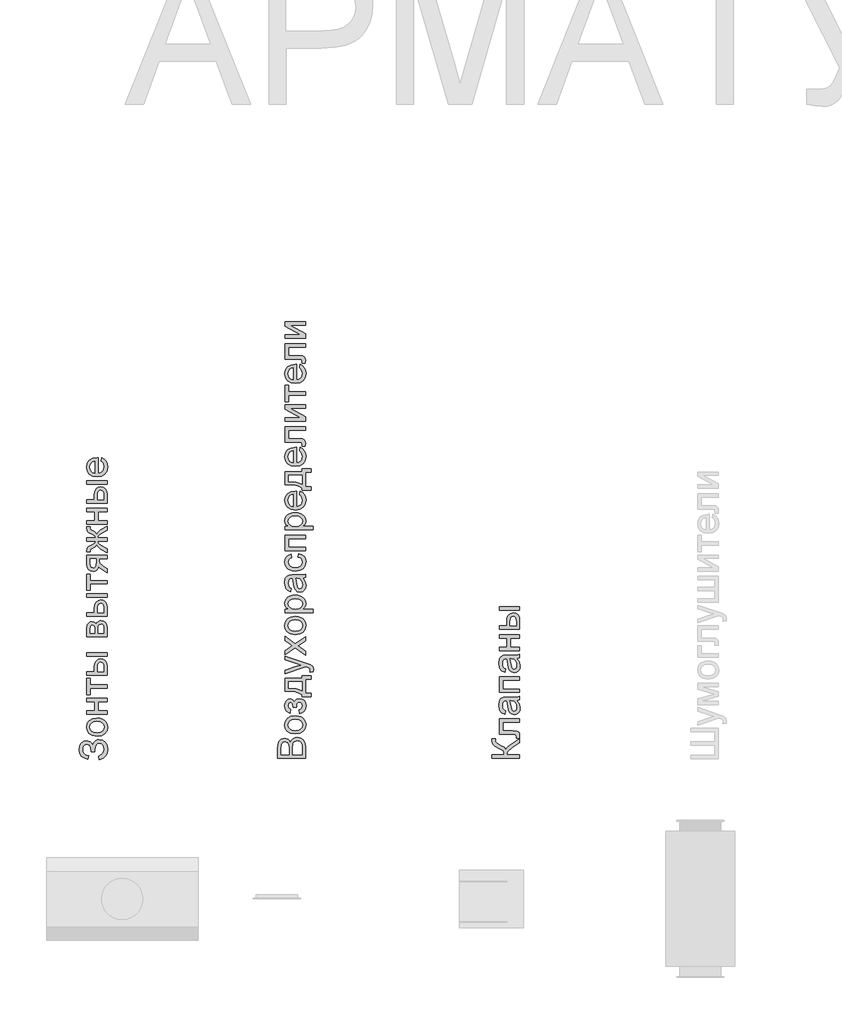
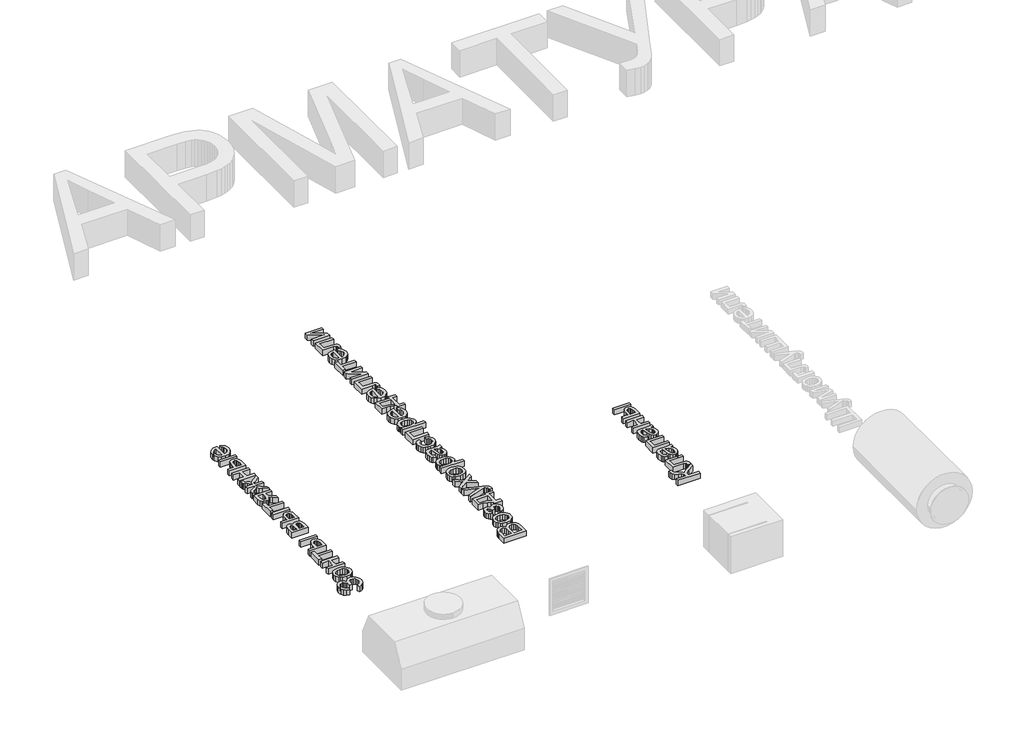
# One storey, part 6 of 8: 3 proxies.
"""IFC4 building model written with IfcOpenShell, lengths in millimetres."""

import ifcopenshell
import ifcopenshell.guid

model = None  # the IFC model being written
_history = None  # IfcOwnerHistory: only IFC2X3 demands one
_inside = {}  # id of a spatial element -> (the spatial element, [elements in it])
_under = {}  # id of a project, library or spatial element -> (it, [spatial elements below it])
_declared = {}  # id of a project -> (the project, [libraries it declares])
_typed = {}  # id of a type object -> (the type object, [elements of that type])
_made_of = {}  # id of a material, layer set ... -> (it, [elements and type objects made of it])


def new_model(schema):
    """Start an empty IFC model of exactly this schema.

    Asked for "IFC4X3", IfcOpenShell would pick the latest addendum, in which some entities
    have other attributes; the version numbers below select the first issue.
    IFC2X3 requires an IfcOwnerHistory on every rooted entity: one is made here for all.
    """
    global model, _history
    if schema == "IFC4X3":
        model = ifcopenshell.file(schema_version=(4, 3, 0, 0))
    else:
        model = ifcopenshell.file(schema=schema)
    _inside.clear()
    _under.clear()
    _declared.clear()
    _typed.clear()
    _made_of.clear()
    _history = None
    if model.schema == "IFC2X3":
        org = make("IfcOrganization", Name="unknown")
        user = make(
            "IfcPersonAndOrganization",
            ThePerson=make("IfcPerson", FamilyName="unknown"),
            TheOrganization=org,
        )
        app = make(
            "IfcApplication",
            ApplicationDeveloper=org,
            Version="unknown",
            ApplicationFullName="unknown",
            ApplicationIdentifier="unknown",
        )
        _history = make(
            "IfcOwnerHistory",
            OwningUser=user,
            OwningApplication=app,
            ChangeAction="ADDED",
            CreationDate=0,
        )
    return model


def make(cls, **values):
    """One entity of the class cls with the attributes given. An attribute that is None is left unset."""
    return model.create_entity(
        cls, **{name: value for name, value in values.items() if value is not None}
    )


def rooted(cls, **values):
    """An entity with a GlobalId (a new one), such as an element, a storey or a relation."""
    return make(cls, GlobalId=ifcopenshell.guid.new(), OwnerHistory=_history, **values)


def si_unit(unit_type, name, prefix=None):
    """IfcSIUnit, for example si_unit("LENGTHUNIT", "METRE", prefix="MILLI")."""
    return make("IfcSIUnit", UnitType=unit_type, Prefix=prefix, Name=name)


def assignment(units):
    """IfcUnitAssignment: the units of a project."""
    return None if units is None else make("IfcUnitAssignment", Units=units)


def point(xyz):
    """IfcCartesianPoint."""
    return None if xyz is None else make("IfcCartesianPoint", Coordinates=xyz)


def direction(xyz):
    """IfcDirection."""
    return None if xyz is None else make("IfcDirection", DirectionRatios=xyz)


def frame(location, z_axis=None, x_axis=None):
    """IfcAxis2Placement3D, a coordinate frame: its origin and axes. An axis left out is left unset."""
    return make(
        "IfcAxis2Placement3D",
        Location=point(location),
        Axis=direction(z_axis),
        RefDirection=direction(x_axis),
    )


def origin():
    """The frame at (0, 0, 0) with its axes left unset."""
    return frame((0.0, 0.0, 0.0))


def origin_with_axes():
    """The frame at (0, 0, 0) with the z axis (0, 0, 1) and the x axis (1, 0, 0) written out."""
    return frame((0.0, 0.0, 0.0), z_axis=(0.0, 0.0, 1.0), x_axis=(1.0, 0.0, 0.0))


def place(relative_to, where):
    """IfcLocalPlacement: puts the frame where relative to a parent placement (None: the world)."""
    return make(
        "IfcLocalPlacement", PlacementRelTo=relative_to, RelativePlacement=where
    )


def context(
    kind, dimensions, precision=None, world=None, true_north=None, identifier=None
):
    """IfcGeometricRepresentationContext, for example the 3D "Model" context."""
    return make(
        "IfcGeometricRepresentationContext",
        ContextIdentifier=identifier,
        ContextType=kind,
        CoordinateSpaceDimension=dimensions,
        Precision=precision,
        WorldCoordinateSystem=world,
        TrueNorth=true_north,
    )


def project(units=None, contexts=None):
    """IfcProject with its units and contexts."""
    return rooted(
        "IfcProject",
        Name="project",
        RepresentationContexts=contexts,
        UnitsInContext=assignment(units),
    )


def spatial(cls, under=None, at=None, **own):
    """A site, building, storey or space (cls), placed at a placement, below another one or the project."""
    s = rooted(cls, ObjectPlacement=at, **own)
    if under is not None:
        _under.setdefault(under.id(), (under, []))[1].append(s)
    return s


def polyline(points):
    """IfcPolyline through the points."""
    return make("IfcPolyline", Points=[point(p) for p in points])


def outline(outer, holes=None, kind="AREA"):
    """IfcArbitraryClosedProfileDef: a profile drawn as a closed curve; with holes, ...WithVoids."""
    if holes is None:
        return make("IfcArbitraryClosedProfileDef", ProfileType=kind, OuterCurve=outer)
    return make(
        "IfcArbitraryProfileDefWithVoids",
        ProfileType=kind,
        OuterCurve=outer,
        InnerCurves=holes,
    )


def extrude(swept, where, along, depth):
    """IfcExtrudedAreaSolid: the profile swept, set in the frame where, extruded along a direction by depth."""
    return make(
        "IfcExtrudedAreaSolid",
        SweptArea=swept,
        Position=where,
        ExtrudedDirection=direction(along),
        Depth=depth,
    )


def shape(context_of_items, identifier, shape_type, items):
    """IfcShapeRepresentation: the items that make up one representation, for example the "Body"."""
    return make(
        "IfcShapeRepresentation",
        ContextOfItems=context_of_items,
        RepresentationIdentifier=identifier,
        RepresentationType=shape_type,
        Items=items,
    )


def made_of(thing, what):
    """Note that an element or type object is made of a material, layer set ...; save() writes the relation."""
    if what is not None:
        _made_of.setdefault(what.id(), (what, []))[1].append(thing)
    return thing


def element(
    cls,
    number,
    at=None,
    inside=None,
    cuts=None,
    type_object=None,
    material=None,
    context=None,
    identifier="Body",
    shape_type=None,
    held_by="IfcProductDefinitionShape",
    body=None,
    shapes=None,
    **own,
):
    """One element of the class cls, such as IfcWall. Its Tag is "e" and its number.

    at: its placement. inside: the storey or other place that contains it. cuts: it is an
    opening in that element (IfcRelVoidsElement). A single representation is given by context,
    identifier, shape_type and body (its items); several are given by shapes. held_by: the class
    of the entity that holds the representations. save() writes the other relations.
    """
    e = rooted(cls, Tag="e%d" % number, ObjectPlacement=at, **own)
    if body is not None:
        shapes = [shape(context, identifier, shape_type, body)]
    if shapes is not None:
        e.Representation = make(held_by, Representations=shapes)
    if inside is not None:
        _inside.setdefault(inside.id(), (inside, []))[1].append(e)
    if cuts is not None:
        rooted(
            "IfcRelVoidsElement", RelatingBuildingElement=cuts, RelatedOpeningElement=e
        )
    if type_object is not None:
        _typed.setdefault(type_object.id(), (type_object, []))[1].append(e)
    return made_of(e, material)


def aggregate(whole, parts):
    """IfcRelAggregates: a whole, such as a stair, and the parts it consists of."""
    return rooted("IfcRelAggregates", RelatingObject=whole, RelatedObjects=parts)


def save(model, path):
    """Write the relations noted so far, then the file.

    IfcRelAggregates (storeys below a building ...), IfcRelContainedInSpatialStructure (elements
    in a storey), IfcRelDefinesByType, IfcRelAssociatesMaterial and IfcRelDeclares: one each for
    every whole, place, type object, material and project.
    """
    for whole, parts in _under.values():
        aggregate(whole, parts)
    for where, things in _inside.values():
        rooted(
            "IfcRelContainedInSpatialStructure",
            RelatedElements=things,
            RelatingStructure=where,
        )
    for kind, things in _typed.values():
        rooted("IfcRelDefinesByType", RelatedObjects=things, RelatingType=kind)
    for what, things in _made_of.values():
        rooted("IfcRelAssociatesMaterial", RelatedObjects=things, RelatingMaterial=what)
    for by, libraries in _declared.values():
        rooted("IfcRelDeclares", RelatingContext=by, RelatedDefinitions=libraries)
    model.write(path)


model = new_model("IFC4")

# Units and contexts
model_context = context("Model", 3, world=origin())
ifc_project = project(units=[si_unit("LENGTHUNIT", "METRE", prefix="MILLI")], contexts=[model_context])

# Site, building, storey
site = spatial("IfcSite", under=ifc_project)
building = spatial("IfcBuilding", under=site)
storey = spatial("IfcBuildingStorey", under=building, Name="Уровень 1", Elevation=0.0)

# Proxies
placement = place(None, origin())
element("IfcBuildingElementProxy", 1, Name="200 мм Arial", ObjectType="200 мм Arial", at=placement, inside=storey, context=model_context, shape_type="SweptSolid", body=[
    extrude(outline(polyline([(-65141.3044356, 31354.1973503), (-65141.3044356, 31379.3114278), (-65053.4051642, 31379.3114278), (-65055.0667645, 31396.3137074), (-65060.0515656, 31407.3930868), (-65071.7808699, 31416.3510134), (-65093.6759799, 31426.9889344), (-65121.7576389, 31440.8458229), (-65135.6635783, 31456.5421213), (-65141.3044356, 31478.9829231), (-65141.01013, 31495.4640364), (-65115.8960524, 31495.4640364), (-65116.0432052, 31489.921281), (-65116.190358, 31484.3785256), (-65114.6820419, 31472.8760819), (-65110.1570933, 31464.7581526), (-65084.3072518, 31449.846669), (-65052.816553, 31432.0657059), (-65042.4177553, 31414.7262012), (-65031.0624644, 31434.1135824), (-65007.3953893, 31453.2311834), (-64940.3918153, 31495.4640364), (-64940.3918153, 31466.3277824), (-64996.9965916, 31430.6187034), (-65026.5497786, 31405.4801004), (-65032.5646492, 31393.8734235), (-65034.569606, 31379.3114278), (-64940.3918153, 31379.3114278), (-64940.3918153, 31354.1973503), (-65141.3044356, 31354.1973503)])), origin_with_axes(), (0.0, 0.0, 1.0), 50.0),
    extrude(outline(polyline([(-65087.9370208, 31526.8566334), (-65087.9370208, 31639.8699823), (-64940.5389681, 31639.8699823), (-64940.5389681, 31614.7559047), (-65062.8229433, 31614.7559047), (-65062.8229433, 31551.9707109), (-64992.4348549, 31551.9707109), (-64959.9631374, 31550.2784537), (-64946.2534017, 31540.983302), (-64941.8572119, 31531.6881502), (-64940.3918153, 31519.0084841), (-64941.6671395, 31498.6032961), (-64965.5058928, 31498.6032961), (-64965.5058928, 31509.8359597), (-64967.0509972, 31521.1912506), (-64971.9560905, 31525.7284619), (-64993.8573319, 31526.8566334), (-65087.9370208, 31526.8566334)])), origin_with_axes(), (0.0, 0.0, 1.0), 50.0),
    extrude(outline(polyline([(-64959.2273734, 31771.7188893), (-64942.2066998, 31747.3651013), (-64937.2525556, 31720.4606647), (-64940.2323998, 31699.4729969), (-64949.1719322, 31683.9912962), (-64962.7467779, 31674.4447585), (-64979.6325614, 31671.2625792), (-64999.4981892, 31676.0695706), (-65013.9191634, 31688.7001858), (-65022.1597201, 31706.2849451), (-65025.9366419, 31728.0145083), (-65034.569606, 31771.5717366), (-65040.1614124, 31771.7188893), (-65051.3695505, 31769.989844), (-65058.7026649, 31764.8027078), (-65064.1473185, 31753.2021623), (-65065.962203, 31737.0398799), (-65064.7543238, 31722.0793455), (-65061.1306861, 31711.6314968), (-65054.4291024, 31704.5068488), (-65043.9873851, 31699.5159164), (-65047.1266448, 31674.4018389), (-65071.6521112, 31685.2666205), (-65079.9049306, 31694.524984), (-65086.0240344, 31707.1433365), (-65091.0762805, 31740.2772415), (-65086.6126456, 31770.7133452), (-65075.4045075, 31787.9056971), (-65058.3593084, 31795.6066936), (-65036.3844906, 31796.8329669), (-65005.1390464, 31796.8329669), (-64961.5082418, 31798.1082911), (-64940.3918153, 31803.1114863), (-64940.3918153, 31777.9974087), (-64959.2273734, 31771.7188893)]), holes=[polyline([(-65009.4555285, 31771.7188893), (-65001.7545321, 31731.2028189), (-64997.6833047, 31709.5958831), (-64991.0614288, 31699.810222), (-64981.398395, 31696.3766567), (-64973.9303905, 31698.2467235), (-64967.8112867, 31703.856924), (-64963.7277965, 31713.0846307), (-64962.3666331, 31725.8072164), (-64963.8688179, 31739.2962228), (-64968.3753724, 31751.2155995), (-64982.9189739, 31767.598611), (-65002.3431433, 31771.5717366), (-65009.4555285, 31771.7188893)])]), origin_with_axes(), (0.0, 0.0, 1.0), 50.0),
    extrude(outline(polyline([(-65087.9370208, 31831.3648235), (-65087.9370208, 31944.3781724), (-64940.3918153, 31944.3781724), (-64940.3918153, 31919.2640949), (-65062.8229433, 31919.2640949), (-65062.8229433, 31856.478901), (-64940.3918153, 31856.478901), (-64940.3918153, 31831.3648235), (-65087.9370208, 31831.3648235)])), origin_with_axes(), (0.0, 0.0, 1.0), 50.0),
    extrude(outline(polyline([(-64959.2273734, 32076.2270795), (-64942.2066998, 32051.8732914), (-64937.2525556, 32024.9688548), (-64940.2323998, 32003.981187), (-64949.1719322, 31988.4994864), (-64962.7467779, 31978.9529486), (-64979.6325614, 31975.7707693), (-64999.4981892, 31980.5777607), (-65013.9191634, 31993.2083759), (-65022.1597201, 32010.7931353), (-65025.9366419, 32032.5226985), (-65034.569606, 32076.0799267), (-65040.1614124, 32076.2270795), (-65051.3695505, 32074.4980341), (-65058.7026649, 32069.310898), (-65064.1473185, 32057.7103524), (-65065.962203, 32041.5480701), (-65064.7543238, 32026.5875356), (-65061.1306861, 32016.1396869), (-65054.4291024, 32009.015039), (-65043.9873851, 32004.0241066), (-65047.1266448, 31978.910029), (-65071.6521112, 31989.7748106), (-65079.9049306, 31999.0331742), (-65086.0240344, 32011.6515266), (-65091.0762805, 32044.7854316), (-65086.6126456, 32075.2215354), (-65075.4045075, 32092.4138873), (-65058.3593084, 32100.1148837), (-65036.3844906, 32101.341157), (-65005.1390464, 32101.341157), (-64961.5082418, 32102.6164813), (-64940.3918153, 32107.6196764), (-64940.3918153, 32082.5055989), (-64959.2273734, 32076.2270795)]), holes=[polyline([(-65009.4555285, 32076.2270795), (-65001.7545321, 32035.7110091), (-64997.6833047, 32014.1040732), (-64991.0614288, 32004.3184122), (-64981.398395, 32000.8848469), (-64973.9303905, 32002.7549137), (-64967.8112867, 32008.3651141), (-64963.7277965, 32017.5928208), (-64962.3666331, 32030.3154065), (-64963.8688179, 32043.804413), (-64968.3753724, 32055.7237896), (-64982.9189739, 32072.1068011), (-65002.3431433, 32076.0799267), (-65009.4555285, 32076.2270795)])]), origin_with_axes(), (0.0, 0.0, 1.0), 50.0),
    extrude(outline(polyline([(-65087.9370208, 32135.8730136), (-65087.9370208, 32160.9870912), (-65031.4303464, 32160.9870912), (-65031.4303464, 32226.9115447), (-65087.9370208, 32226.9115447), (-65087.9370208, 32252.0256223), (-64940.3918153, 32252.0256223), (-64940.3918153, 32226.9115447), (-65006.3162688, 32226.9115447), (-65006.3162688, 32160.9870912), (-64940.3918153, 32160.9870912), (-64940.3918153, 32135.8730136), (-65087.9370208, 32135.8730136)])), origin_with_axes(), (0.0, 0.0, 1.0), 50.0),
    extrude(outline(polyline([(-65087.9370208, 32289.6967386), (-65087.9370208, 32314.8108161), (-65034.569606, 32314.8108161), (-65034.569606, 32345.8600565), (-65031.424215, 32372.697048), (-65021.9880418, 32392.5810699), (-65007.021376, 32404.8867226), (-64987.2845069, 32408.9886069), (-64969.3134715, 32405.5489102), (-64954.1506019, 32395.2298202), (-64943.8315119, 32377.3568866), (-64940.3918153, 32351.2556591), (-64940.3918153, 32289.6967386), (-65087.9370208, 32289.6967386)]), holes=[polyline([(-64965.5058928, 32314.8108161), (-64965.5058928, 32340.6116067), (-64966.8241366, 32360.6121245), (-64970.7788681, 32373.91719), (-64977.5295027, 32381.3851945), (-64987.235456, 32383.8745293), (-64995.4392245, 32382.028988), (-65002.6864998, 32376.492364), (-65007.7632713, 32364.6526951), (-65009.4555285, 32343.8980192), (-65009.4555285, 32314.8108161), (-64965.5058928, 32314.8108161)])]), origin_with_axes(), (0.0, 0.0, 1.0), 50.0),
    extrude(outline(polyline([(-65087.9370208, 32427.824165), (-65087.9370208, 32452.9382426), (-64940.3918153, 32452.9382426), (-64940.3918153, 32427.824165), (-65087.9370208, 32427.824165)])), origin_with_axes(), (0.0, 0.0, 1.0), 50.0),
])
element("IfcBuildingElementProxy", 2, Name="200 мм Arial", ObjectType="200 мм Arial", at=placement, inside=storey, context=model_context, shape_type="SweptSolid", body=[
    extrude(outline(polyline([(-66496.8984897, 31354.1973503), (-66697.81111, 31354.1973503), (-66697.81111, 31430.8639581), (-66696.3334507, 31451.9497278), (-66691.9004727, 31468.4124471), (-66684.4018113, 31481.0307995), (-66673.7271021, 31490.5834686), (-66661.1700633, 31496.5983393), (-66648.0244134, 31498.6032961), (-66635.9272271, 31496.9171703), (-66624.5535421, 31491.8587929), (-66614.6023341, 31483.3913756), (-66606.772579, 31471.4781304), (-66599.3413627, 31485.7090322), (-66588.0351227, 31496.2243259), (-66573.6018857, 31502.7174431), (-66556.7896786, 31504.8818155), (-66529.7871401, 31498.9711781), (-66510.5591745, 31484.3294747), (-66500.3565805, 31462.4772842), (-66496.8984897, 31430.2753469), (-66496.8984897, 31354.1973503)]), holes=[polyline([(-66616.190358, 31379.3114278), (-66616.190358, 31425.1740499), (-66618.3485991, 31451.9558591), (-66627.6437508, 31468.0690905), (-66644.0022369, 31473.4892186), (-66660.3852484, 31468.4369725), (-66670.0728076, 31453.9669474), (-66672.6970325, 31421.6914337), (-66672.6970325, 31379.3114278), (-66616.190358, 31379.3114278)]), polyline([(-66522.0125673, 31379.3114278), (-66522.0125673, 31430.8149072), (-66522.9935859, 31449.4542616), (-66528.4627649, 31465.2241364), (-66539.6218521, 31475.6719851), (-66556.5444239, 31479.767738), (-66576.0666951, 31474.9607466), (-66583.123898, 31468.6638331), (-66587.7162916, 31459.3870754), (-66591.0762805, 31428.3623605), (-66591.0762805, 31379.3114278), (-66522.0125673, 31379.3114278)])]), origin_with_axes(), (0.0, 0.0, 1.0), 50.0),
    extrude(outline(polyline([(-66570.6710925, 31529.9958931), (-66606.2452814, 31535.4282838), (-66620.0684474, 31542.2187723), (-66631.2489944, 31551.7254562), (-66643.4994648, 31571.8608641), (-66647.582955, 31595.9693975), (-66642.6104167, 31622.3526679), (-66627.6928018, 31643.4261749), (-66604.0073326, 31657.2401438), (-66572.7312317, 31661.8448001), (-66547.3596367, 31659.8091864), (-66528.045832, 31653.7023453), (-66513.5819382, 31643.7020864), (-66502.7600762, 31629.9862193), (-66496.0094416, 31613.6951783), (-66493.7592301, 31595.9693975), (-66498.7133743, 31569.267296), (-66513.5758069, 31548.2183145), (-66537.7579167, 31534.5514984), (-66570.6710925, 31529.9958931)]), holes=[polyline([(-66570.7201434, 31555.1099706), (-66547.9911675, 31558.0162384), (-66531.7982284, 31566.7350416), (-66522.1045378, 31579.8561661), (-66518.8733076, 31595.9693975), (-66522.1229319, 31612.0090525), (-66531.8718048, 31625.1056515), (-66548.2793417, 31633.8244548), (-66571.5049584, 31636.7307226), (-66593.5717467, 31633.8060607), (-66609.5439567, 31625.0320751), (-66619.2376472, 31611.917082), (-66622.4688774, 31595.9693975), (-66619.24991, 31579.8561661), (-66609.5930076, 31566.7350416), (-66593.4368566, 31558.0162384), (-66570.7201434, 31555.1099706)])]), origin_with_axes(), (0.0, 0.0, 1.0), 50.0),
    extrude(outline(polyline([(-66562.8229433, 31724.629994), (-66587.9370208, 31724.629994), (-66588.9180395, 31744.4465708), (-66594.1419638, 31754.452961), (-66605.0557963, 31759.1618506), (-66612.1988384, 31757.5860894), (-66617.7354624, 31752.8588057), (-66622.4688774, 31736.5984215), (-66617.7599879, 31719.7984771), (-66603.6333193, 31708.9336955), (-66606.772579, 31680.6803583), (-66624.6271185, 31688.1728882), (-66637.380361, 31699.5649674), (-66645.0323065, 31714.8565956), (-66647.582955, 31734.047773), (-66644.4743521, 31755.0415722), (-66635.1485435, 31770.9340744), (-66621.5062529, 31780.9404647), (-66605.4482038, 31784.2759281), (-66589.8500072, 31779.5302504), (-66577.7834777, 31765.2932172), (-66562.1362302, 31781.8969579), (-66539.6218521, 31787.4151878), (-66521.1357819, 31783.9141775), (-66506.4879471, 31773.4111465), (-66496.9414093, 31756.6173334), (-66493.7592301, 31734.2439768), (-66496.702286, 31712.3611294), (-66505.5314539, 31695.6163673), (-66520.2467337, 31684.0096903), (-66540.8481254, 31677.5410986), (-66543.9873851, 31705.7944358), (-66533.3678582, 31710.0250788), (-66525.4461326, 31717.1252013), (-66520.5165138, 31726.2732002), (-66518.8733076, 31736.6474725), (-66520.4490688, 31746.7519646), (-66525.1763524, 31754.9925213), (-66532.3561827, 31760.473963), (-66541.2895838, 31762.3011103), (-66554.4842847, 31757.763899), (-66561.547619, 31748.1008653), (-66562.9700961, 31729.5350872), (-66562.8229433, 31724.629994)])), origin_with_axes(), (0.0, 0.0, 1.0), 50.0),
    extrude(outline(polyline([(-66644.4436953, 31840.7826026), (-66644.4436953, 31934.9603933), (-66522.0125673, 31934.9603933), (-66522.0125673, 31953.7959515), (-66456.0881137, 31953.7959515), (-66456.0881137, 31928.681874), (-66496.8984897, 31928.681874), (-66496.8984897, 31825.0863041), (-66456.0881137, 31825.0863041), (-66456.0881137, 31799.9722266), (-66522.0125673, 31799.9722266), (-66522.0125673, 31815.668525), (-66542.6323531, 31827.0789983), (-66569.9108031, 31835.0681689), (-66603.8479171, 31839.636037), (-66644.4436953, 31840.7826026)]), holes=[polyline([(-66619.3296177, 31862.7574204), (-66562.1117048, 31856.8713085), (-66522.0125673, 31843.9218623), (-66522.0125673, 31909.8463158), (-66619.3296177, 31909.8463158), (-66619.3296177, 31862.7574204)])]), origin_with_axes(), (0.0, 0.0, 1.0), 50.0),
    extrude(outline(polyline([(-66440.3918153, 31982.0492887), (-66464.5739251, 31978.910029), (-66462.3666331, 31991.6632715), (-66465.1380108, 32003.5826482), (-66472.8635327, 32010.8912371), (-66491.3557343, 32017.7583677), (-66497.43805, 32019.720405), (-66644.4436953, 31966.3529903), (-66644.4436953, 31992.8404939), (-66562.5286377, 32021.1428821), (-66529.7626146, 32031.0021195), (-66558.7026649, 32040.861357), (-66644.4436953, 32069.9485601), (-66644.4436953, 32096.23986), (-66493.3668226, 32044.8835335), (-66460.6007996, 32031.5416798), (-66442.8934129, 32016.9735528), (-66437.2525556, 31997.4022307), (-66440.3918153, 31982.0492887)])), origin_with_axes(), (0.0, 0.0, 1.0), 50.0),
    extrude(outline(polyline([(-66496.8984897, 32101.341157), (-66571.0635, 32155.0028774), (-66644.4436953, 32104.4804167), (-66644.4436953, 32134.6957913), (-66609.1270237, 32159.0741048), (-66592.4497066, 32170.4539212), (-66606.0858659, 32180.3131587), (-66644.4436953, 32208.0759866), (-66644.4436953, 32238.2913611), (-66571.0635, 32185.2182519), (-66496.8984897, 32236.3293238), (-66496.8984897, 32206.1139493), (-66541.4857876, 32175.3590145), (-66549.6282424, 32169.7181572), (-66496.8984897, 32131.5565316), (-66496.8984897, 32101.341157)])), origin_with_axes(), (0.0, 0.0, 1.0), 50.0),
    extrude(outline(polyline([(-66570.6710925, 32252.0256223), (-66606.2452814, 32257.458013), (-66620.0684474, 32264.2485015), (-66631.2489944, 32273.7551854), (-66643.4994648, 32293.8905933), (-66647.582955, 32317.9991267), (-66642.6104167, 32344.3823971), (-66627.6928018, 32365.4559041), (-66604.0073326, 32379.269873), (-66572.7312317, 32383.8745293), (-66547.3596367, 32381.8389156), (-66528.045832, 32375.7320745), (-66513.5819382, 32365.7318156), (-66502.7600762, 32352.0159485), (-66496.0094416, 32335.7249075), (-66493.7592301, 32317.9991267), (-66498.7133743, 32291.2970252), (-66513.5758069, 32270.2480437), (-66537.7579167, 32256.5812276), (-66570.6710925, 32252.0256223)]), holes=[polyline([(-66570.7201434, 32277.1396998), (-66547.9911675, 32280.0459676), (-66531.7982284, 32288.7647708), (-66522.1045378, 32301.8858953), (-66518.8733076, 32317.9991267), (-66522.1229319, 32334.0387817), (-66531.8718048, 32347.1353807), (-66548.2793417, 32355.854184), (-66571.5049584, 32358.7604518), (-66593.5717467, 32355.8357899), (-66609.5439567, 32347.0618043), (-66619.2376472, 32333.9468112), (-66622.4688774, 32317.9991267), (-66619.24991, 32301.8858953), (-66609.5930076, 32288.7647708), (-66593.4368566, 32280.0459676), (-66570.7201434, 32277.1396998)])]), origin_with_axes(), (0.0, 0.0, 1.0), 50.0),
    extrude(outline(polyline([(-66440.3918153, 32412.1278666), (-66644.4436953, 32412.1278666), (-66644.4436953, 32437.2419441), (-66619.8201271, 32437.2419441), (-66640.642248, 32454.6059743), (-66645.8477782, 32465.2990776), (-66647.582955, 32478.0523201), (-66645.1549338, 32495.0362055), (-66637.8708703, 32509.8863754), (-66626.1722228, 32521.9774303), (-66610.5004499, 32530.6839709), (-66591.9959855, 32535.9446834), (-66571.799264, 32537.6982542), (-66550.3210868, 32535.7178228), (-66531.1115153, 32529.7765286), (-66515.1454367, 32520.0644439), (-66503.3977383, 32506.7716412), (-66496.1688571, 32491.2899405), (-66493.7592301, 32475.0111623), (-66495.3717795, 32463.465799), (-66500.2094277, 32453.1589717), (-66516.5188628, 32437.2419441), (-66440.3918153, 32437.2419441), (-66440.3918153, 32412.1278666)]), holes=[polyline([(-66569.4938701, 32437.2419441), (-66546.979492, 32439.9581395), (-66531.2341426, 32448.1067257), (-66521.9635163, 32460.1303356), (-66518.8733076, 32474.471602), (-66522.0738809, 32489.0458604), (-66531.675601, 32501.3760386), (-66547.9972989, 32509.7821422), (-66571.3578056, 32512.5841767), (-66593.7495563, 32509.8495872), (-66609.7156349, 32501.6458187), (-66619.2805668, 32489.6406029), (-66622.4688774, 32475.5016716), (-66619.0782317, 32461.3075579), (-66608.9062945, 32448.8424897), (-66592.271897, 32440.1420805), (-66569.4938701, 32437.2419441)])]), origin_with_axes(), (0.0, 0.0, 1.0), 50.0),
    extrude(outline(polyline([(-66515.7340479, 32660.1293822), (-66498.7133743, 32635.7755942), (-66493.7592301, 32608.8711576), (-66496.7390742, 32587.8834897), (-66505.6786067, 32572.4017891), (-66519.2534523, 32562.8552513), (-66536.1392359, 32559.6730721), (-66556.0048636, 32564.4800635), (-66570.4258378, 32577.1106787), (-66578.6663945, 32594.695438), (-66582.4433164, 32616.4250012), (-66591.0762805, 32659.9822294), (-66596.6680868, 32660.1293822), (-66607.876225, 32658.4003369), (-66615.2093394, 32653.2132007), (-66620.6539929, 32641.6126551), (-66622.4688774, 32625.4503728), (-66621.2609982, 32610.4898384), (-66617.6373606, 32600.0419897), (-66610.9357769, 32592.9173417), (-66600.4940596, 32587.9264093), (-66603.6333193, 32562.8123318), (-66628.1587856, 32573.6771134), (-66636.411605, 32582.9354769), (-66642.5307089, 32595.5538293), (-66647.582955, 32628.6877344), (-66643.1193201, 32659.1238381), (-66631.911182, 32676.31619), (-66614.8659829, 32684.0171865), (-66592.891165, 32685.2434598), (-66561.6457209, 32685.2434598), (-66518.0149163, 32686.518784), (-66496.8984897, 32691.5219792), (-66496.8984897, 32666.4079016), (-66515.7340479, 32660.1293822)]), holes=[polyline([(-66565.962203, 32660.1293822), (-66558.2612065, 32619.6133118), (-66554.1899791, 32598.006376), (-66547.5681032, 32588.2207149), (-66537.9050695, 32584.7871496), (-66530.437065, 32586.6572164), (-66524.3179611, 32592.2674169), (-66520.234471, 32601.4951236), (-66518.8733076, 32614.2177092), (-66520.3754924, 32627.7067157), (-66524.8820468, 32639.6260924), (-66539.4256484, 32656.0091039), (-66558.8498177, 32659.9822294), (-66565.962203, 32660.1293822)])]), origin_with_axes(), (0.0, 0.0, 1.0), 50.0),
    extrude(outline(polyline([(-66550.2659045, 32813.9531072), (-66547.1266448, 32839.0671847), (-66524.7900763, 32832.065164), (-66507.9104241, 32818.9072514), (-66497.2970286, 32800.8319827), (-66493.7592301, 32779.077894), (-66498.6949802, 32752.3635298), (-66513.5022305, 32731.4739638), (-66537.5310561, 32717.9910887), (-66570.1315322, 32713.496797), (-66592.4803635, 32715.4159147), (-66611.8493505, 32721.173268), (-66627.4904667, 32730.8608272), (-66638.6556852, 32744.5705629), (-66645.3511375, 32760.9719685), (-66647.582955, 32778.7345375), (-66644.5172717, 32799.9551972), (-66635.3202218, 32816.9206886), (-66620.4823147, 32829.0914513), (-66600.4940596, 32835.927925), (-66597.3547999, 32810.8138475), (-66608.311552, 32806.2582421), (-66616.1658326, 32799.1642509), (-66620.8931162, 32789.9242815), (-66622.4688774, 32778.9307412), (-66619.3664059, 32762.7010139), (-66610.0589915, 32749.8190127), (-66594.0438619, 32741.4129091), (-66570.8182453, 32738.6108745), (-66547.279929, 32741.3515954), (-66531.2096172, 32749.573758), (-66521.957385, 32762.2227673), (-66518.8733076, 32778.2440282), (-66520.7985567, 32791.2486567), (-66526.574304, 32801.9111032), (-66536.3477024, 32809.6672819), (-66550.2659045, 32813.9531072)])), origin_with_axes(), (0.0, 0.0, 1.0), 50.0),
    extrude(outline(polyline([(-66644.4436953, 32861.0420025), (-66644.4436953, 32974.0553515), (-66496.8984897, 32974.0553515), (-66496.8984897, 32948.9412739), (-66619.3296177, 32948.9412739), (-66619.3296177, 32886.1560801), (-66496.8984897, 32886.1560801), (-66496.8984897, 32861.0420025), (-66644.4436953, 32861.0420025)])), origin_with_axes(), (0.0, 0.0, 1.0), 50.0),
    extrude(outline(polyline([(-66440.3918153, 33011.7264678), (-66644.4436953, 33011.7264678), (-66644.4436953, 33036.8405453), (-66619.8201271, 33036.8405453), (-66640.642248, 33054.2045755), (-66645.8477782, 33064.8976788), (-66647.582955, 33077.6509213), (-66645.1549338, 33094.6348067), (-66637.8708703, 33109.4849766), (-66626.1722228, 33121.5760315), (-66610.5004499, 33130.2825721), (-66591.9959855, 33135.5432846), (-66571.799264, 33137.2968554), (-66550.3210868, 33135.316424), (-66531.1115153, 33129.3751298), (-66515.1454367, 33119.6630451), (-66503.3977383, 33106.3702424), (-66496.1688571, 33090.8885418), (-66493.7592301, 33074.6097635), (-66495.3717795, 33063.0644002), (-66500.2094277, 33052.757573), (-66516.5188628, 33036.8405453), (-66440.3918153, 33036.8405453), (-66440.3918153, 33011.7264678)]), holes=[polyline([(-66569.4938701, 33036.8405453), (-66546.979492, 33039.5567407), (-66531.2341426, 33047.7053269), (-66521.9635163, 33059.7289368), (-66518.8733076, 33074.0702032), (-66522.0738809, 33088.6444616), (-66531.675601, 33100.9746398), (-66547.9972989, 33109.3807434), (-66571.3578056, 33112.1827779), (-66593.7495563, 33109.4481884), (-66609.7156349, 33101.2444199), (-66619.2805668, 33089.2392041), (-66622.4688774, 33075.1002728), (-66619.0782317, 33060.9061591), (-66608.9062945, 33048.4410909), (-66592.271897, 33039.7406817), (-66569.4938701, 33036.8405453)])]), origin_with_axes(), (0.0, 0.0, 1.0), 50.0),
    extrude(outline(polyline([(-66540.8481254, 33268.8514569), (-66537.7088657, 33293.4750251), (-66519.1553505, 33284.6029377), (-66505.2861992, 33270.4456122), (-66496.6409723, 33251.3218799), (-66493.7592301, 33227.5505716), (-66498.7317684, 33198.0832238), (-66513.6493833, 33175.4094301), (-66537.5433188, 33160.9516677), (-66569.4448192, 33156.1324136), (-66602.4193087, 33161.0007187), (-66627.0796651, 33175.6056339), (-66642.4571325, 33197.9728592), (-66647.582955, 33226.1280945), (-66642.4693952, 33253.4065445), (-66627.128716, 33275.2035527), (-66602.5174106, 33289.4957682), (-66569.591972, 33294.2598401), (-66562.8229433, 33294.1126873), (-66562.8229433, 33181.2464911), (-66544.0241733, 33185.59363), (-66530.204073, 33195.6919908), (-66521.705999, 33210.2662492), (-66518.8733076, 33228.0410809), (-66524.1217574, 33252.6646491), (-66530.9275743, 33261.8126481), (-66540.8481254, 33268.8514569)]), holes=[polyline([(-66587.9370208, 33181.2464911), (-66587.9370208, 33269.1457625), (-66601.2052981, 33265.7489854), (-66610.6966536, 33259.0903213), (-66619.5258215, 33244.4486179), (-66622.4688774, 33226.0299927), (-66620.120564, 33209.1012895), (-66613.0756238, 33195.1033796), (-66602.0943463, 33185.3729008), (-66587.9370208, 33181.2464911)])]), origin_with_axes(), (0.0, 0.0, 1.0), 50.0),
    extrude(outline(polyline([(-66644.4436953, 33341.3487354), (-66644.4436953, 33435.5265262), (-66522.0125673, 33435.5265262), (-66522.0125673, 33454.3620844), (-66456.0881137, 33454.3620844), (-66456.0881137, 33429.2480068), (-66496.8984897, 33429.2480068), (-66496.8984897, 33325.652437), (-66456.0881137, 33325.652437), (-66456.0881137, 33300.5383594), (-66522.0125673, 33300.5383594), (-66522.0125673, 33316.2346579), (-66542.6323531, 33327.6451311), (-66569.9108031, 33335.6343018), (-66603.8479171, 33340.2021699), (-66644.4436953, 33341.3487354)]), holes=[polyline([(-66619.3296177, 33363.3235533), (-66562.1117048, 33357.4374414), (-66522.0125673, 33344.4879951), (-66522.0125673, 33410.4124487), (-66619.3296177, 33410.4124487), (-66619.3296177, 33363.3235533)])]), origin_with_axes(), (0.0, 0.0, 1.0), 50.0),
    extrude(outline(polyline([(-66540.8481254, 33585.9166858), (-66537.7088657, 33610.540254), (-66519.1553505, 33601.6681666), (-66505.2861992, 33587.5108411), (-66496.6409723, 33568.3871088), (-66493.7592301, 33544.6158005), (-66498.7317684, 33515.1484527), (-66513.6493833, 33492.4746591), (-66537.5433188, 33478.0168966), (-66569.4448192, 33473.1976425), (-66602.4193087, 33478.0659476), (-66627.0796651, 33492.6708628), (-66642.4571325, 33515.0380881), (-66647.582955, 33543.1933235), (-66642.4693952, 33570.4717734), (-66627.128716, 33592.2687816), (-66602.5174106, 33606.5609971), (-66569.591972, 33611.325069), (-66562.8229433, 33611.1779162), (-66562.8229433, 33498.31172), (-66544.0241733, 33502.658859), (-66530.204073, 33512.7572197), (-66521.705999, 33527.3314781), (-66518.8733076, 33545.1063098), (-66524.1217574, 33569.729878), (-66530.9275743, 33578.877877), (-66540.8481254, 33585.9166858)]), holes=[polyline([(-66587.9370208, 33498.31172), (-66587.9370208, 33586.2109914), (-66601.2052981, 33582.8142143), (-66610.6966536, 33576.1555502), (-66619.5258215, 33561.5138468), (-66622.4688774, 33543.0952216), (-66620.120564, 33526.1665184), (-66613.0756238, 33512.1686085), (-66602.0943463, 33502.4381298), (-66587.9370208, 33498.31172)])]), origin_with_axes(), (0.0, 0.0, 1.0), 50.0),
    extrude(outline(polyline([(-66644.4436953, 33648.9961853), (-66644.4436953, 33762.0095342), (-66497.0456425, 33762.0095342), (-66497.0456425, 33736.8954567), (-66619.3296177, 33736.8954567), (-66619.3296177, 33674.1102628), (-66548.9415293, 33674.1102628), (-66516.4698119, 33672.4180056), (-66502.7600762, 33663.1228539), (-66498.3638864, 33653.8277021), (-66496.8984897, 33641.148036), (-66498.173814, 33620.742848), (-66522.0125673, 33620.742848), (-66522.0125673, 33631.9755116), (-66523.5576717, 33643.3308025), (-66528.4627649, 33647.8680138), (-66550.3640064, 33648.9961853), (-66644.4436953, 33648.9961853)])), origin_with_axes(), (0.0, 0.0, 1.0), 50.0),
    extrude(outline(polyline([(-66644.4436953, 33799.6806505), (-66644.4436953, 33824.794728), (-66531.9208557, 33824.794728), (-66644.4436953, 33886.5008014), (-66644.4436953, 33918.9725188), (-66496.8984897, 33918.9725188), (-66496.8984897, 33893.8584413), (-66608.7346163, 33893.8584413), (-66496.8984897, 33832.5447754), (-66496.8984897, 33799.6806505), (-66644.4436953, 33799.6806505)])), origin_with_axes(), (0.0, 0.0, 1.0), 50.0),
    extrude(outline(polyline([(-66644.4436953, 33944.0865963), (-66644.4436953, 34063.3784646), (-66619.3296177, 34063.3784646), (-66619.3296177, 34016.2895693), (-66496.8984897, 34016.2895693), (-66496.8984897, 33991.1754917), (-66619.3296177, 33991.1754917), (-66619.3296177, 33944.0865963), (-66644.4436953, 33944.0865963)])), origin_with_axes(), (0.0, 0.0, 1.0), 50.0),
    extrude(outline(polyline([(-66540.8481254, 34188.6545467), (-66537.7088657, 34213.2781149), (-66519.1553505, 34204.4060275), (-66505.2861992, 34190.248702), (-66496.6409723, 34171.1249697), (-66493.7592301, 34147.3536614), (-66498.7317684, 34117.8863136), (-66513.6493833, 34095.21252), (-66537.5433188, 34080.7547575), (-66569.4448192, 34075.9355034), (-66602.4193087, 34080.8038085), (-66627.0796651, 34095.4087237), (-66642.4571325, 34117.775949), (-66647.582955, 34145.9311844), (-66642.4693952, 34173.2096343), (-66627.128716, 34195.0066425), (-66602.5174106, 34209.298858), (-66569.591972, 34214.0629299), (-66562.8229433, 34213.9157771), (-66562.8229433, 34101.0495809), (-66544.0241733, 34105.3967199), (-66530.204073, 34115.4950806), (-66521.705999, 34130.069339), (-66518.8733076, 34147.8441707), (-66524.1217574, 34172.4677389), (-66530.9275743, 34181.6157379), (-66540.8481254, 34188.6545467)]), holes=[polyline([(-66587.9370208, 34101.0495809), (-66587.9370208, 34188.9488523), (-66601.2052981, 34185.5520752), (-66610.6966536, 34178.8934111), (-66619.5258215, 34164.2517077), (-66622.4688774, 34145.8330825), (-66620.120564, 34128.9043793), (-66613.0756238, 34114.9064694), (-66602.0943463, 34105.1759907), (-66587.9370208, 34101.0495809)])]), origin_with_axes(), (0.0, 0.0, 1.0), 50.0),
    extrude(outline(polyline([(-66644.4436953, 34251.7340462), (-66644.4436953, 34364.7473951), (-66497.0456425, 34364.7473951), (-66497.0456425, 34339.6333175), (-66619.3296177, 34339.6333175), (-66619.3296177, 34276.8481237), (-66548.9415293, 34276.8481237), (-66516.4698119, 34275.1558665), (-66502.7600762, 34265.8607148), (-66498.3638864, 34256.565563), (-66496.8984897, 34243.8858969), (-66498.173814, 34223.4807089), (-66522.0125673, 34223.4807089), (-66522.0125673, 34234.7133725), (-66523.5576717, 34246.0686634), (-66528.4627649, 34250.6058747), (-66550.3640064, 34251.7340462), (-66644.4436953, 34251.7340462)])), origin_with_axes(), (0.0, 0.0, 1.0), 50.0),
    extrude(outline(polyline([(-66644.4436953, 34402.4185114), (-66644.4436953, 34427.5325889), (-66531.9208557, 34427.5325889), (-66644.4436953, 34489.2386623), (-66644.4436953, 34521.7103797), (-66496.8984897, 34521.7103797), (-66496.8984897, 34496.5963022), (-66608.7346163, 34496.5963022), (-66496.8984897, 34435.2826363), (-66496.8984897, 34402.4185114), (-66644.4436953, 34402.4185114)])), origin_with_axes(), (0.0, 0.0, 1.0), 50.0),
])
element("IfcBuildingElementProxy", 3, Name="200 мм Arial", ObjectType="200 мм Arial", at=placement, inside=storey, context=model_context, shape_type="SweptSolid", body=[
    extrude(outline(polyline([(-67993.7592301, 31344.7795712), (-68000.0377494, 31369.8936488), (-67986.4445097, 31375.1972808), (-67972.8390073, 31385.3201671), (-67962.6302819, 31399.8944255), (-67959.2273734, 31418.552174), (-67961.7841533, 31437.4551772), (-67969.4544929, 31451.8822827), (-67980.7423388, 31461.0241503), (-67994.1516375, 31464.0714395), (-68008.1985984, 31460.7421075), (-68019.0449859, 31450.7541113), (-68025.9795615, 31435.027156), (-68028.2910867, 31414.4809466), (-68028.2910867, 31401.2862457), (-68053.4051642, 31401.2862457), (-68055.4407779, 31429.7112612), (-68059.0582842, 31438.9757561), (-68065.8395756, 31447.0998168), (-68074.7729768, 31452.7651995), (-68084.8468121, 31454.6536604), (-68096.6742182, 31452.1398001), (-68106.8461554, 31444.5982192), (-68113.8543074, 31432.7646817), (-68116.190358, 31417.3749516), (-68114.3938676, 31403.4628808), (-68109.0043964, 31391.7458393), (-68100.6473437, 31382.7695186), (-68089.9481091, 31377.0796104), (-68072.2407224, 31373.0329084), (-68078.5192417, 31347.9188309), (-68105.987764, 31355.7209949), (-68125.6081371, 31369.8568606), (-68137.380361, 31390.3264279), (-68141.3044356, 31417.1296969), (-68137.2270768, 31442.9856698), (-68124.9950005, 31462.8696917), (-68107.3060079, 31475.5432264), (-68086.8579003, 31479.767738), (-68073.6417396, 31478.1245317), (-68062.0013402, 31473.194913), (-68051.9367019, 31464.9788818), (-68043.4478249, 31453.4764381), (-68037.0160213, 31467.4436911), (-68026.1573711, 31478.9338721), (-68011.8038419, 31486.6226058), (-67994.8874015, 31489.1855171), (-67971.1038305, 31484.2681611), (-67951.5509025, 31469.516093), (-67938.4726975, 31446.6460957), (-67934.1132959, 31417.3749516), (-67937.8411668, 31391.9052548), (-67949.0247794, 31371.3161258), (-67967.6641339, 31355.6075646), (-67993.7592301, 31344.7795712)])), origin_with_axes(), (0.0, 0.0, 1.0), 50.0),
    extrude(outline(polyline([(-68011.0251584, 31514.2995946), (-68046.5993473, 31519.7319854), (-68060.4225133, 31526.5224739), (-68071.6030602, 31536.0291578), (-68083.8535307, 31556.1645656), (-68087.9370208, 31580.2730991), (-68082.9644825, 31606.6563695), (-68068.0468676, 31627.7298764), (-68044.3613985, 31641.5438454), (-68013.0852975, 31646.1485017), (-67987.7137026, 31644.112888), (-67968.3998978, 31638.0060468), (-67953.9360041, 31628.0057879), (-67943.114142, 31614.2899209), (-67936.3635074, 31597.9988799), (-67934.1132959, 31580.2730991), (-67939.0674401, 31553.5709976), (-67953.9298727, 31532.5220161), (-67978.1119825, 31518.8552), (-68011.0251584, 31514.2995946)]), holes=[polyline([(-68011.0742093, 31539.4136721), (-67988.3452334, 31542.3199399), (-67972.1522942, 31551.0387432), (-67962.4586036, 31564.1598677), (-67959.2273734, 31580.2730991), (-67962.4769977, 31596.312754), (-67972.2258706, 31609.4093531), (-67988.6334076, 31618.1281564), (-68011.8590242, 31621.0344241), (-68033.9258126, 31618.1097623), (-68049.8980225, 31609.3357767), (-68059.5917131, 31596.2207835), (-68062.8229433, 31580.2730991), (-68059.6039758, 31564.1598677), (-68049.9470734, 31551.0387432), (-68033.7909225, 31542.3199399), (-68011.0742093, 31539.4136721)])]), origin_with_axes(), (0.0, 0.0, 1.0), 50.0),
    extrude(outline(polyline([(-68084.7977611, 31674.4018389), (-68084.7977611, 31699.5159164), (-68028.2910867, 31699.5159164), (-68028.2910867, 31765.44037), (-68084.7977611, 31765.44037), (-68084.7977611, 31790.5544475), (-67937.2525556, 31790.5544475), (-67937.2525556, 31765.44037), (-68003.1770091, 31765.44037), (-68003.1770091, 31699.5159164), (-67937.2525556, 31699.5159164), (-67937.2525556, 31674.4018389), (-68084.7977611, 31674.4018389)])), origin_with_axes(), (0.0, 0.0, 1.0), 50.0),
    extrude(outline(polyline([(-68084.7977611, 31815.668525), (-68084.7977611, 31934.9603933), (-68059.6836836, 31934.9603933), (-68059.6836836, 31887.871498), (-67937.2525556, 31887.871498), (-67937.2525556, 31862.7574204), (-68059.6836836, 31862.7574204), (-68059.6836836, 31815.668525), (-68084.7977611, 31815.668525)])), origin_with_axes(), (0.0, 0.0, 1.0), 50.0),
    extrude(outline(polyline([(-68084.7977611, 31956.9352112), (-68084.7977611, 31982.0492887), (-68031.4303464, 31982.0492887), (-68031.4303464, 32013.0985291), (-68028.2849553, 32039.9355207), (-68018.8487821, 32059.8195425), (-68003.8821163, 32072.1251952), (-67984.1452472, 32076.2270795), (-67966.1742118, 32072.7873828), (-67951.0113422, 32062.4682929), (-67940.6922522, 32044.5953593), (-67937.2525556, 32018.4941317), (-67937.2525556, 31956.9352112), (-68084.7977611, 31956.9352112)]), holes=[polyline([(-67962.3666331, 31982.0492887), (-67962.3666331, 32007.8500793), (-67963.6848769, 32027.8505971), (-67967.6396084, 32041.1556626), (-67974.390243, 32048.6236671), (-67984.0961963, 32051.113002), (-67992.2999648, 32049.2674606), (-67999.5472401, 32043.7308366), (-68004.6240116, 32031.8911677), (-68006.3162688, 32011.1364918), (-68006.3162688, 31982.0492887), (-67962.3666331, 31982.0492887)])]), origin_with_axes(), (0.0, 0.0, 1.0), 50.0),
    extrude(outline(polyline([(-68084.7977611, 32095.0626376), (-68084.7977611, 32120.1767152), (-67937.2525556, 32120.1767152), (-67937.2525556, 32095.0626376), (-68084.7977611, 32095.0626376)])), origin_with_axes(), (0.0, 0.0, 1.0), 50.0),
    extrude(outline(polyline([(-68084.7977611, 32236.3293238), (-68084.7977611, 32291.6587759), (-68081.4377722, 32321.9967777), (-68069.1259881, 32339.0665023), (-68059.2851448, 32344.4191853), (-68047.6662051, 32346.203413), (-68030.2285985, 32341.8869309), (-68017.7941871, 32328.8884338), (-68012.5763941, 32338.1835855), (-68004.1825532, 32345.7619546), (-67993.2748521, 32350.801938), (-67980.5154782, 32352.4819324), (-67961.3733517, 32348.226764), (-67947.896608, 32338.1100091), (-67939.9135687, 32322.0948796), (-67937.2525556, 32300.1445872), (-67937.2525556, 32236.3293238), (-68084.7977611, 32236.3293238)]), holes=[polyline([(-68028.2910867, 32261.4434013), (-68028.2910867, 32286.2631733), (-68029.5664109, 32306.7419377), (-68034.6677079, 32316.699277), (-68043.8892833, 32321.0893355), (-68051.3818132, 32319.1640864), (-68056.2010674, 32313.388339), (-68059.6836836, 32287.0479882), (-68059.6836836, 32261.4434013), (-68028.2910867, 32261.4434013)]), polyline([(-67962.3666331, 32261.4434013), (-67962.3666331, 32292.2473871), (-67963.5009359, 32309.0350688), (-67966.9038444, 32319.5687566), (-67973.0903933, 32325.2218766), (-67982.5756174, 32327.3678549), (-67994.6666723, 32323.0758983), (-68001.7054811, 32311.8922856), (-68003.1770091, 32289.7948404), (-68003.1770091, 32261.4434013), (-67962.3666331, 32261.4434013)])]), origin_with_axes(), (0.0, 0.0, 1.0), 50.0),
    extrude(outline(polyline([(-68084.7977611, 32383.8745293), (-68084.7977611, 32408.9886069), (-68031.4303464, 32408.9886069), (-68031.4303464, 32440.0378473), (-68028.2849553, 32466.8748388), (-68018.8487821, 32486.7588606), (-68003.8821163, 32499.0645134), (-67984.1452472, 32503.1663976), (-67966.1742118, 32499.726701), (-67951.0113422, 32489.407611), (-67940.6922522, 32471.5346774), (-67937.2525556, 32445.4334498), (-67937.2525556, 32383.8745293), (-68084.7977611, 32383.8745293)]), holes=[polyline([(-67962.3666331, 32408.9886069), (-67962.3666331, 32434.7893975), (-67963.6848769, 32454.7899153), (-67967.6396084, 32468.0949808), (-67974.390243, 32475.5629853), (-67984.0961963, 32478.0523201), (-67992.2999648, 32476.2067787), (-67999.5472401, 32470.6701547), (-68004.6240116, 32458.8304858), (-68006.3162688, 32438.0758099), (-68006.3162688, 32408.9886069), (-67962.3666331, 32408.9886069)])]), origin_with_axes(), (0.0, 0.0, 1.0), 50.0),
    extrude(outline(polyline([(-68084.7977611, 32522.0019558), (-68084.7977611, 32547.1160333), (-67937.2525556, 32547.1160333), (-67937.2525556, 32522.0019558), (-68084.7977611, 32522.0019558)])), origin_with_axes(), (0.0, 0.0, 1.0), 50.0),
    extrude(outline(polyline([(-68084.7977611, 32572.2301109), (-68084.7977611, 32691.5219792), (-68059.6836836, 32691.5219792), (-68059.6836836, 32644.4330838), (-67937.2525556, 32644.4330838), (-67937.2525556, 32619.3190062), (-68059.6836836, 32619.3190062), (-68059.6836836, 32572.2301109), (-68084.7977611, 32572.2301109)])), origin_with_axes(), (0.0, 0.0, 1.0), 50.0),
    extrude(outline(polyline([(-68084.7977611, 32826.5101459), (-67937.2525556, 32826.5101459), (-67937.2525556, 32801.3960684), (-67993.7592301, 32801.3960684), (-67993.7592301, 32787.7108582), (-67990.5709194, 32769.0715037), (-67969.1356618, 32751.5603208), (-67937.2525556, 32731.5475402), (-67937.2525556, 32702.5093881), (-67977.5724223, 32727.7215675), (-67992.0424474, 32738.8561292), (-67998.4681196, 32749.1077741), (-68003.7288321, 32731.9399477), (-68013.7229597, 32719.8734183), (-68027.0157624, 32712.7365075), (-68042.1725006, 32710.3575373), (-68059.3648525, 32713.6071616), (-68072.9764863, 32723.3560345), (-68081.8424424, 32739.2607994), (-68084.7977611, 32760.9780998), (-68084.7977611, 32826.5101459)]), holes=[polyline([(-68059.6836836, 32801.3960684), (-68059.6836836, 32768.2866888), (-68058.2305497, 32751.1863074), (-68053.8711481, 32741.4803541), (-68040.2595142, 32735.4716148), (-68030.688451, 32737.6850382), (-68024.048181, 32744.3253082), (-68020.1670259, 32756.5941727), (-68018.8733076, 32775.6933797), (-68018.8733076, 32801.3960684), (-68059.6836836, 32801.3960684)])]), origin_with_axes(), (0.0, 0.0, 1.0), 50.0),
    extrude(outline(polyline([(-68084.7977611, 32955.2197933), (-68022.0125673, 32955.2197933), (-68023.3062856, 32964.079618), (-68027.1874407, 32969.8614967), (-68054.0428263, 32983.7183852), (-68070.7814571, 32992.3636121), (-68079.794566, 33000.2485495), (-68083.5469623, 33009.8257441), (-68084.7977611, 33023.7439463), (-68084.7977611, 33033.7012856), (-68059.5365308, 33033.7012856), (-68059.6836836, 33026.7851041), (-68057.0839842, 33013.8356579), (-68040.7990745, 33004.8593372), (-68022.944535, 32994.436014), (-68013.8701125, 32979.5490559), (-68004.0967141, 32995.9688556), (-67983.5075851, 33011.9717224), (-67937.2525556, 33039.979805), (-67937.2525556, 33011.1869075), (-67982.869923, 32983.6202833), (-68001.8281085, 32969.5671911), (-68006.3162688, 32955.2197933), (-67937.2525556, 32955.2197933), (-67937.2525556, 32930.1057158), (-68006.3162688, 32930.1057158), (-68001.9262103, 32915.8073689), (-67982.9680249, 32901.6561748), (-67937.2525556, 32874.0895506), (-67937.2525556, 32845.3457041), (-67983.5075851, 32873.2556848), (-68004.0967141, 32889.3811789), (-68013.8701125, 32905.874555), (-68023.8765027, 32890.0801547), (-68049.6282424, 32876.5420973), (-68058.1140537, 32869.9202214), (-68059.8308364, 32859.0799652), (-68059.6836836, 32851.6242235), (-68084.7977611, 32851.6242235), (-68084.7977611, 32855.4011453), (-68083.2281313, 32877.4250141), (-68076.5572044, 32888.8538814), (-68054.0428263, 32901.6561748), (-68027.3591189, 32915.3659105), (-68023.3492052, 32921.1477892), (-68022.0125673, 32930.1057158), (-68084.7977611, 32930.1057158), (-68084.7977611, 32955.2197933)])), origin_with_axes(), (0.0, 0.0, 1.0), 50.0),
    extrude(outline(polyline([(-68084.7977611, 33052.5368438), (-68084.7977611, 33077.6509213), (-68028.2910867, 33077.6509213), (-68028.2910867, 33143.5753748), (-68084.7977611, 33143.5753748), (-68084.7977611, 33168.6894524), (-67937.2525556, 33168.6894524), (-67937.2525556, 33143.5753748), (-68003.1770091, 33143.5753748), (-68003.1770091, 33077.6509213), (-67937.2525556, 33077.6509213), (-67937.2525556, 33052.5368438), (-68084.7977611, 33052.5368438)])), origin_with_axes(), (0.0, 0.0, 1.0), 50.0),
    extrude(outline(polyline([(-68084.7977611, 33206.3605687), (-68084.7977611, 33231.4746462), (-68031.4303464, 33231.4746462), (-68031.4303464, 33262.5238866), (-68028.2849553, 33289.3608782), (-68018.8487821, 33309.2449), (-68003.8821163, 33321.5505527), (-67984.1452472, 33325.652437), (-67966.1742118, 33322.2127403), (-67951.0113422, 33311.8936504), (-67940.6922522, 33294.0207168), (-67937.2525556, 33267.9194892), (-67937.2525556, 33206.3605687), (-68084.7977611, 33206.3605687)]), holes=[polyline([(-67962.3666331, 33231.4746462), (-67962.3666331, 33257.2754368), (-67963.6848769, 33277.2759546), (-67967.6396084, 33290.5810201), (-67974.390243, 33298.0490246), (-67984.0961963, 33300.5383594), (-67992.2999648, 33298.6928181), (-67999.5472401, 33293.1561941), (-68004.6240116, 33281.3165252), (-68006.3162688, 33260.5618493), (-68006.3162688, 33231.4746462), (-67962.3666331, 33231.4746462)])]), origin_with_axes(), (0.0, 0.0, 1.0), 50.0),
    extrude(outline(polyline([(-68084.7977611, 33344.4879951), (-68084.7977611, 33369.6020727), (-67937.2525556, 33369.6020727), (-67937.2525556, 33344.4879951), (-68084.7977611, 33344.4879951)])), origin_with_axes(), (0.0, 0.0, 1.0), 50.0),
    extrude(outline(polyline([(-67981.2021913, 33510.5744532), (-67978.0629316, 33535.1980214), (-67959.5094163, 33526.325934), (-67945.6402651, 33512.1686085), (-67936.9950382, 33493.0448761), (-67934.1132959, 33469.2735679), (-67939.0858342, 33439.8062201), (-67954.0034491, 33417.1324264), (-67977.8973847, 33402.674664), (-68009.798885, 33397.8554099), (-68042.7733745, 33402.723715), (-68067.433731, 33417.3286302), (-68082.8111983, 33439.6958555), (-68087.9370208, 33467.8510908), (-68082.8234611, 33495.1295408), (-68067.4827819, 33516.926549), (-68042.8714764, 33531.2187645), (-68009.9460378, 33535.9828364), (-68003.1770091, 33535.8356836), (-68003.1770091, 33422.9694874), (-67984.3782392, 33427.3166263), (-67970.5581389, 33437.4149871), (-67962.0600648, 33451.9892455), (-67959.2273734, 33469.7640772), (-67964.4758232, 33494.3876454), (-67971.2816401, 33503.5356444), (-67981.2021913, 33510.5744532)]), holes=[polyline([(-68028.2910867, 33422.9694874), (-68028.2910867, 33510.8687588), (-68041.559364, 33507.4719817), (-68051.0507194, 33500.8133176), (-68059.8798873, 33486.1716142), (-68062.8229433, 33467.752989), (-68060.4746299, 33450.8242858), (-68053.4296897, 33436.8263759), (-68042.4484121, 33427.0958971), (-68028.2910867, 33422.9694874)])]), origin_with_axes(), (0.0, 0.0, 1.0), 50.0),
])

save(model, "model.ifc")
